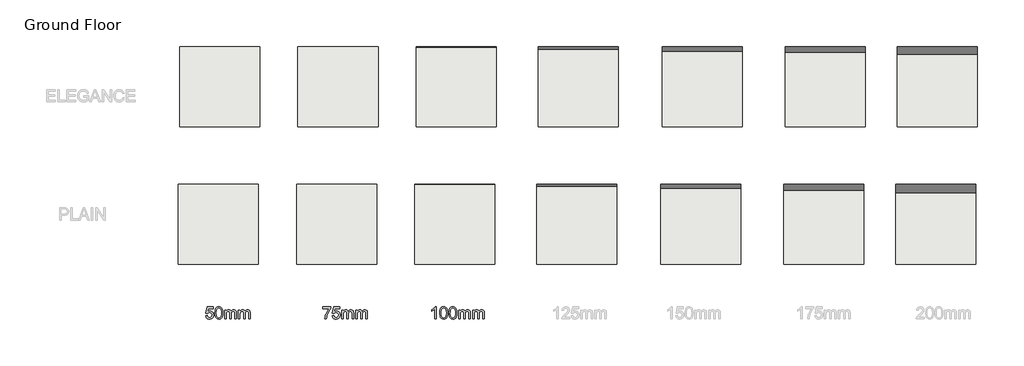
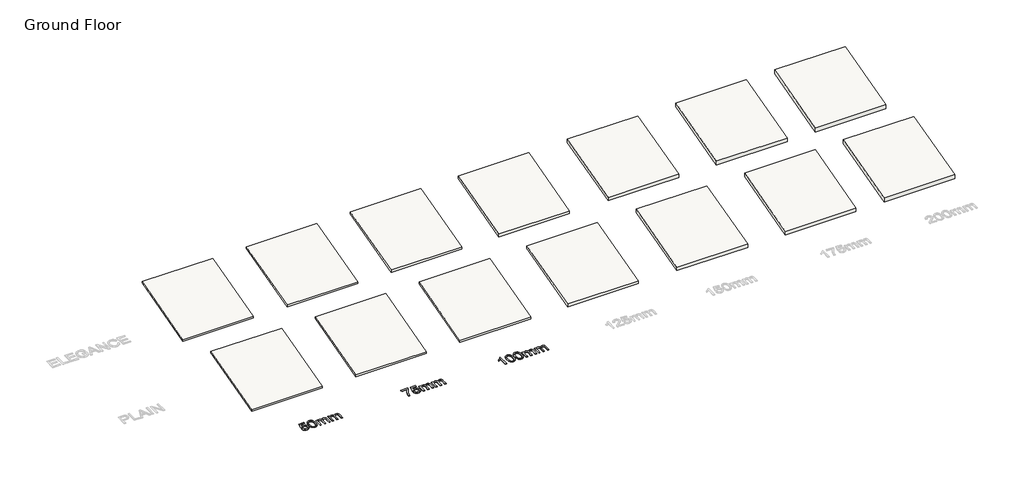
# One storey, part 1 of 3: 14 roofs, 3 proxies.
"""IFC4 building model written with IfcOpenShell, lengths in millimetres."""

import ifcopenshell
import ifcopenshell.guid

model = None  # the IFC model being written
_history = None  # IfcOwnerHistory: only IFC2X3 demands one
_inside = {}  # id of a spatial element -> (the spatial element, [elements in it])
_under = {}  # id of a project, library or spatial element -> (it, [spatial elements below it])
_declared = {}  # id of a project -> (the project, [libraries it declares])
_typed = {}  # id of a type object -> (the type object, [elements of that type])
_made_of = {}  # id of a material, layer set ... -> (it, [elements and type objects made of it])


def new_model(schema):
    """Start an empty IFC model of exactly this schema.

    Asked for "IFC4X3", IfcOpenShell would pick the latest addendum, in which some entities
    have other attributes; the version numbers below select the first issue.
    IFC2X3 requires an IfcOwnerHistory on every rooted entity: one is made here for all.
    """
    global model, _history
    if schema == "IFC4X3":
        model = ifcopenshell.file(schema_version=(4, 3, 0, 0))
    else:
        model = ifcopenshell.file(schema=schema)
    _inside.clear()
    _under.clear()
    _declared.clear()
    _typed.clear()
    _made_of.clear()
    _history = None
    if model.schema == "IFC2X3":
        org = make("IfcOrganization", Name="unknown")
        user = make(
            "IfcPersonAndOrganization",
            ThePerson=make("IfcPerson", FamilyName="unknown"),
            TheOrganization=org,
        )
        app = make(
            "IfcApplication",
            ApplicationDeveloper=org,
            Version="unknown",
            ApplicationFullName="unknown",
            ApplicationIdentifier="unknown",
        )
        _history = make(
            "IfcOwnerHistory",
            OwningUser=user,
            OwningApplication=app,
            ChangeAction="ADDED",
            CreationDate=0,
        )
    return model


def make(cls, **values):
    """One entity of the class cls with the attributes given. An attribute that is None is left unset."""
    return model.create_entity(
        cls, **{name: value for name, value in values.items() if value is not None}
    )


def rooted(cls, **values):
    """An entity with a GlobalId (a new one), such as an element, a storey or a relation."""
    return make(cls, GlobalId=ifcopenshell.guid.new(), OwnerHistory=_history, **values)


def si_unit(unit_type, name, prefix=None):
    """IfcSIUnit, for example si_unit("LENGTHUNIT", "METRE", prefix="MILLI")."""
    return make("IfcSIUnit", UnitType=unit_type, Prefix=prefix, Name=name)


def assignment(units):
    """IfcUnitAssignment: the units of a project."""
    return None if units is None else make("IfcUnitAssignment", Units=units)


def point(xyz):
    """IfcCartesianPoint."""
    return None if xyz is None else make("IfcCartesianPoint", Coordinates=xyz)


def direction(xyz):
    """IfcDirection."""
    return None if xyz is None else make("IfcDirection", DirectionRatios=xyz)


def frame(location, z_axis=None, x_axis=None):
    """IfcAxis2Placement3D, a coordinate frame: its origin and axes. An axis left out is left unset."""
    return make(
        "IfcAxis2Placement3D",
        Location=point(location),
        Axis=direction(z_axis),
        RefDirection=direction(x_axis),
    )


def origin():
    """The frame at (0, 0, 0) with its axes left unset."""
    return frame((0.0, 0.0, 0.0))


def origin_with_axes():
    """The frame at (0, 0, 0) with the z axis (0, 0, 1) and the x axis (1, 0, 0) written out."""
    return frame((0.0, 0.0, 0.0), z_axis=(0.0, 0.0, 1.0), x_axis=(1.0, 0.0, 0.0))


def place(relative_to, where):
    """IfcLocalPlacement: puts the frame where relative to a parent placement (None: the world)."""
    return make(
        "IfcLocalPlacement", PlacementRelTo=relative_to, RelativePlacement=where
    )


def context(
    kind, dimensions, precision=None, world=None, true_north=None, identifier=None
):
    """IfcGeometricRepresentationContext, for example the 3D "Model" context."""
    return make(
        "IfcGeometricRepresentationContext",
        ContextIdentifier=identifier,
        ContextType=kind,
        CoordinateSpaceDimension=dimensions,
        Precision=precision,
        WorldCoordinateSystem=world,
        TrueNorth=true_north,
    )


def project(units=None, contexts=None):
    """IfcProject with its units and contexts."""
    return rooted(
        "IfcProject",
        Name="project",
        RepresentationContexts=contexts,
        UnitsInContext=assignment(units),
    )


def spatial(cls, under=None, at=None, **own):
    """A site, building, storey or space (cls), placed at a placement, below another one or the project."""
    s = rooted(cls, ObjectPlacement=at, **own)
    if under is not None:
        _under.setdefault(under.id(), (under, []))[1].append(s)
    return s


def polyline(points):
    """IfcPolyline through the points."""
    return make("IfcPolyline", Points=[point(p) for p in points])


def outline(outer, holes=None, kind="AREA"):
    """IfcArbitraryClosedProfileDef: a profile drawn as a closed curve; with holes, ...WithVoids."""
    if holes is None:
        return make("IfcArbitraryClosedProfileDef", ProfileType=kind, OuterCurve=outer)
    return make(
        "IfcArbitraryProfileDefWithVoids",
        ProfileType=kind,
        OuterCurve=outer,
        InnerCurves=holes,
    )


def extrude(swept, where, along, depth):
    """IfcExtrudedAreaSolid: the profile swept, set in the frame where, extruded along a direction by depth."""
    return make(
        "IfcExtrudedAreaSolid",
        SweptArea=swept,
        Position=where,
        ExtrudedDirection=direction(along),
        Depth=depth,
    )


def shape(context_of_items, identifier, shape_type, items):
    """IfcShapeRepresentation: the items that make up one representation, for example the "Body"."""
    return make(
        "IfcShapeRepresentation",
        ContextOfItems=context_of_items,
        RepresentationIdentifier=identifier,
        RepresentationType=shape_type,
        Items=items,
    )


def made_of(thing, what):
    """Note that an element or type object is made of a material, layer set ...; save() writes the relation."""
    if what is not None:
        _made_of.setdefault(what.id(), (what, []))[1].append(thing)
    return thing


def element(
    cls,
    number,
    at=None,
    inside=None,
    cuts=None,
    type_object=None,
    material=None,
    context=None,
    identifier="Body",
    shape_type=None,
    held_by="IfcProductDefinitionShape",
    body=None,
    shapes=None,
    **own,
):
    """One element of the class cls, such as IfcWall. Its Tag is "e" and its number.

    at: its placement. inside: the storey or other place that contains it. cuts: it is an
    opening in that element (IfcRelVoidsElement). A single representation is given by context,
    identifier, shape_type and body (its items); several are given by shapes. held_by: the class
    of the entity that holds the representations. save() writes the other relations.
    """
    e = rooted(cls, Tag="e%d" % number, ObjectPlacement=at, **own)
    if body is not None:
        shapes = [shape(context, identifier, shape_type, body)]
    if shapes is not None:
        e.Representation = make(held_by, Representations=shapes)
    if inside is not None:
        _inside.setdefault(inside.id(), (inside, []))[1].append(e)
    if cuts is not None:
        rooted(
            "IfcRelVoidsElement", RelatingBuildingElement=cuts, RelatedOpeningElement=e
        )
    if type_object is not None:
        _typed.setdefault(type_object.id(), (type_object, []))[1].append(e)
    return made_of(e, material)


def aggregate(whole, parts):
    """IfcRelAggregates: a whole, such as a stair, and the parts it consists of."""
    return rooted("IfcRelAggregates", RelatingObject=whole, RelatedObjects=parts)


def save(model, path):
    """Write the relations noted so far, then the file.

    IfcRelAggregates (storeys below a building ...), IfcRelContainedInSpatialStructure (elements
    in a storey), IfcRelDefinesByType, IfcRelAssociatesMaterial and IfcRelDeclares: one each for
    every whole, place, type object, material and project.
    """
    for whole, parts in _under.values():
        aggregate(whole, parts)
    for where, things in _inside.values():
        rooted(
            "IfcRelContainedInSpatialStructure",
            RelatedElements=things,
            RelatingStructure=where,
        )
    for kind, things in _typed.values():
        rooted("IfcRelDefinesByType", RelatedObjects=things, RelatingType=kind)
    for what, things in _made_of.values():
        rooted("IfcRelAssociatesMaterial", RelatedObjects=things, RelatingMaterial=what)
    for by, libraries in _declared.values():
        rooted("IfcRelDeclares", RelatingContext=by, RelatedDefinitions=libraries)
    model.write(path)


model = new_model("IFC4")

# Units and contexts
model_context = context("Model", 3, world=origin())
ifc_project = project(units=[si_unit("LENGTHUNIT", "METRE", prefix="MILLI")], contexts=[model_context])

# Site, building, storey
site = spatial("IfcSite", under=ifc_project)
building = spatial("IfcBuilding", under=site)
storey = spatial("IfcBuildingStorey", under=building, Name="Ground Floor", Elevation=0.0)

# Proxies
placement = place(None, origin())
element("IfcBuildingElementProxy", 1, Name="600mm Arial", ObjectType="600mm Arial", at=placement, inside=storey, context=model_context, shape_type="SweptSolid", body=[
    extrude(outline(polyline([(-8104.9680038, -2325.4851257), (-8029.6257712, -2316.0673466), (-8023.9971767, -2340.2877775), (-8015.7934082, -2361.2984379), (-8005.0144657, -2379.099328), (-7991.6603493, -2393.6904476), (-7975.7586501, -2405.0534027), (-7957.3369592, -2413.1697993), (-7936.3952766, -2418.0396372), (-7912.9336023, -2419.6629165), (-7884.2388067, -2417.4050407), (-7858.9285255, -2410.6314135), (-7837.0027585, -2399.3420348), (-7818.461506, -2383.5369045), (-7803.718635, -2363.9977721), (-7793.1880129, -2341.5063866), (-7786.8696396, -2316.0627481), (-7784.7635152, -2287.6668566), (-7786.7362824, -2260.8298651), (-7792.654584, -2236.9727177), (-7802.51842, -2216.0954144), (-7816.3277904, -2198.1979554), (-7834.1286805, -2183.8413605), (-7855.9670754, -2173.5866499), (-7881.8429752, -2167.4338235), (-7911.75638, -2165.3828814), (-7948.3054562, -2168.6570312), (-7977.9015627, -2178.4794804), (-8001.5379809, -2193.525854), (-8020.2079921, -2212.4717768), (-8095.5502248, -2203.0539977), (-8029.6257712, -1892.2672882), (-7737.6746198, -1892.2672882), (-7737.6746198, -1967.6095208), (-7968.7045128, -1967.6095208), (-8000.9309756, -2133.597877), (-7974.3423044, -2114.5415897), (-7947.1098397, -2100.9299559), (-7919.2335815, -2092.7629756), (-7890.7135298, -2090.0406488), (-7854.0218993, -2093.4159661), (-7820.3193101, -2103.541918), (-7789.605762, -2120.4185045), (-7761.8812551, -2144.0457257), (-7738.9300172, -2172.9796446), (-7722.5362757, -2205.7763245), (-7712.7000309, -2242.4357653), (-7709.4212826, -2282.9579671), (-7712.3735356, -2321.9902468), (-7721.2302947, -2358.3001997), (-7735.9915597, -2391.8878258), (-7756.6573308, -2422.7531252), (-7787.9640886, -2454.3633857), (-7824.4947707, -2476.9421431), (-7866.2493772, -2490.4893976), (-7913.2279079, -2495.0051491), (-7952.1084363, -2492.1034798), (-7987.2273713, -2483.3984721), (-8018.5847128, -2468.890126), (-8046.180461, -2448.5784413), (-8069.140896, -2423.4750936), (-8086.5922982, -2394.5917585), (-8098.5346674, -2361.9284359), (-8104.9680038, -2325.4851257)])), origin_with_axes(), (0.0, 0.0, 1.0), 20.0),
    extrude(outline(polyline([(-7643.4968291, -2189.0744819), (-7637.9602051, -2092.5974287), (-7631.039425, -2051.6843523), (-7621.350333, -2015.6549094), (-7608.9343156, -1984.2147944), (-7593.8327597, -1957.0697016), (-7576.0456653, -1934.2196312), (-7555.5730322, -1915.6645831), (-7532.3458828, -1901.3079882), (-7506.295239, -1891.0532776), (-7477.4211009, -1884.9004512), (-7445.7234685, -1882.8495091), (-7399.2967607, -1887.7055514), (-7357.7260952, -1902.2736785), (-7322.9612467, -1925.983673), (-7296.9519896, -1958.2653181), (-7277.3070911, -1998.8427022), (-7261.6353181, -2047.4399138), (-7251.3714104, -2109.1521184), (-7247.9501079, -2189.0744819), (-7253.4315496, -2284.9997121), (-7260.2833518, -2325.7748328), (-7269.8758748, -2361.7582904), (-7282.1953231, -2393.212201), (-7297.2279011, -2420.3986805), (-7314.9736089, -2443.3177288), (-7335.4324463, -2461.9693459), (-7358.6871869, -2476.4225098), (-7384.8206042, -2486.7461983), (-7413.832698, -2492.9404114), (-7445.7234685, -2495.0051491), (-7487.2205575, -2491.4182996), (-7524.008757, -2480.6577513), (-7556.088067, -2462.723504), (-7583.4584875, -2437.6155578), (-7609.7252619, -2392.2281167), (-7628.4872437, -2335.675457), (-7639.7444327, -2267.9575787), (-7643.4968291, -2189.0744819)]), holes=[polyline([(-7568.1545965, -2188.9273291), (-7565.9473045, -2254.4241198), (-7559.3254286, -2307.4405138), (-7548.2889687, -2347.9765112), (-7532.8379249, -2376.0321118), (-7514.1495196, -2395.1205889), (-7493.400975, -2408.7552153), (-7470.5922913, -2416.9359912), (-7445.7234685, -2419.6629165), (-7420.8546456, -2416.9267941), (-7398.0459619, -2408.7184271), (-7377.2974174, -2395.0378154), (-7358.609012, -2375.884959), (-7343.1579682, -2347.7833731), (-7332.1215084, -2307.2565728), (-7325.4996324, -2254.3045582), (-7323.2923405, -2188.9273291), (-7325.426056, -2125.1641823), (-7331.8272028, -2073.0812888), (-7342.4957806, -2032.6786487), (-7357.4317896, -2003.9562619), (-7375.8074953, -1983.9342843), (-7396.7951631, -1969.6328718), (-7420.3947931, -1961.0520242), (-7446.6063853, -1958.1917417), (-7471.3464494, -1960.7117334), (-7493.768857, -1968.2717084), (-7513.8736081, -1980.8716667), (-7531.6607025, -1998.5116084), (-7547.6267811, -2029.781578), (-7559.031123, -2071.9408546), (-7565.8737281, -2124.9894383), (-7568.1545965, -2188.9273291)])]), origin_with_axes(), (0.0, 0.0, 1.0), 20.0),
    extrude(outline(polyline([(-7163.1900962, -2485.58737), (-7163.1900962, -2042.9517534), (-7087.8478636, -2042.9517534), (-7087.8478636, -2115.7923885), (-7065.1863327, -2082.333521), (-7036.0500786, -2056.1219288), (-7001.4323829, -2039.180963), (-6962.3265268, -2033.5339743), (-6920.4247676, -2039.2913276), (-6902.5916878, -2046.4880191), (-6886.8371414, -2056.5633872), (-6861.7475893, -2084.2097192), (-6845.3400523, -2121.0898892), (-6817.8776614, -2082.7841764), (-6786.5525095, -2055.422953), (-6751.3645967, -2039.006219), (-6712.3139229, -2033.5339743), (-6682.1521978, -2035.8102442), (-6655.6784897, -2042.6390537), (-6632.8927987, -2054.0204029), (-6613.7951246, -2069.9542919), (-6598.6981672, -2090.6246615), (-6587.9146262, -2116.2154528), (-6581.4445016, -2146.7266657), (-6579.2877934, -2182.1583004), (-6579.2877934, -2485.58737), (-6654.630026, -2485.58737), (-6654.630026, -2214.531916), (-6656.3774655, -2176.9527702), (-6661.619784, -2151.6240948), (-6671.4422332, -2134.2784587), (-6686.9300652, -2120.6484308), (-6706.8508753, -2111.8192629), (-6729.9722587, -2108.8762069), (-6751.32321, -2110.7616022), (-6770.788766, -2116.4177879), (-6788.3689269, -2125.844764), (-6804.0636925, -2139.0425306), (-6816.971752, -2156.3973637), (-6826.1917945, -2178.2955394), (-6831.72382, -2204.7370578), (-6833.5678285, -2235.7219189), (-6833.5678285, -2485.58737), (-6908.9100611, -2485.58737), (-6908.9100611, -2206.1442065), (-6913.2694628, -2163.5434714), (-6918.7187148, -2146.8232348), (-6926.3476677, -2133.1564186), (-6936.459824, -2122.533826), (-6949.3586865, -2114.9462599), (-6965.044255, -2110.3937202), (-6983.5165297, -2108.8762069), (-7012.5424192, -2112.9229089), (-7039.2874402, -2125.0630147), (-7061.3603599, -2145.0022189), (-7076.3699453, -2172.4462157), (-7084.978384, -2210.5220022), (-7087.8478636, -2262.3565753), (-7087.8478636, -2485.58737), (-7163.1900962, -2485.58737)])), origin_with_axes(), (0.0, 0.0, 1.0), 20.0),
    extrude(outline(polyline([(-6466.2744445, -2485.58737), (-6466.2744445, -2042.9517534), (-6390.9322119, -2042.9517534), (-6390.9322119, -2115.7923885), (-6368.270681, -2082.333521), (-6339.134427, -2056.1219288), (-6304.5167312, -2039.180963), (-6265.4108751, -2033.5339743), (-6223.5091159, -2039.2913276), (-6205.6760362, -2046.4880191), (-6189.9214897, -2056.5633872), (-6164.8319377, -2084.2097192), (-6148.4244007, -2121.0898892), (-6120.9620097, -2082.7841764), (-6089.6368579, -2055.422953), (-6054.448945, -2039.006219), (-6015.3982712, -2033.5339743), (-5985.2365461, -2035.8102442), (-5958.7628381, -2042.6390537), (-5935.977147, -2054.0204029), (-5916.8794729, -2069.9542919), (-5901.7825155, -2090.6246615), (-5890.9989746, -2116.2154528), (-5884.52885, -2146.7266657), (-5882.3721418, -2182.1583004), (-5882.3721418, -2485.58737), (-5957.7143744, -2485.58737), (-5957.7143744, -2214.531916), (-5959.4618139, -2176.9527702), (-5964.7041323, -2151.6240948), (-5974.5265816, -2134.2784587), (-5990.0144136, -2120.6484308), (-6009.9352236, -2111.8192629), (-6033.056607, -2108.8762069), (-6054.4075583, -2110.7616022), (-6073.8731144, -2116.4177879), (-6091.4532752, -2125.844764), (-6107.1480408, -2139.0425306), (-6120.0561003, -2156.3973637), (-6129.2761428, -2178.2955394), (-6134.8081683, -2204.7370578), (-6136.6521768, -2235.7219189), (-6136.6521768, -2485.58737), (-6211.9944094, -2485.58737), (-6211.9944094, -2206.1442065), (-6216.3538111, -2163.5434714), (-6221.8030631, -2146.8232348), (-6229.432016, -2133.1564186), (-6239.5441724, -2122.533826), (-6252.4430348, -2114.9462599), (-6268.1286034, -2110.3937202), (-6286.6008781, -2108.8762069), (-6315.6267675, -2112.9229089), (-6342.3717885, -2125.0630147), (-6364.4447082, -2145.0022189), (-6379.4542937, -2172.4462157), (-6388.0627323, -2210.5220022), (-6390.9322119, -2262.3565753), (-6390.9322119, -2485.58737), (-6466.2744445, -2485.58737)])), origin_with_axes(), (0.0, 0.0, 1.0), 20.0),
])
element("IfcBuildingElementProxy", 2, Name="600mm Arial", ObjectType="600mm Arial", at=placement, inside=storey, context=model_context, shape_type="SweptSolid", body=[
    extrude(outline(polyline([(-2245.6761452, -1967.6095208), (-2245.6761452, -1892.2672882), (-1850.129424, -1892.2672882), (-1850.129424, -1953.1885466), (-1906.5073397, -2024.5392596), (-1962.3334325, -2115.2773537), (-2011.5744375, -2217.125484), (-2031.4630579, -2269.1118085), (-2048.1970902, -2321.8063058), (-2066.1497315, -2400.1283825), (-2076.1561218, -2485.58737), (-2151.4983544, -2485.58737), (-2143.3497682, -2407.9274808), (-2121.55276, -2315.6258882), (-2105.6832504, -2266.260723), (-2086.695941, -2217.7876716), (-2064.5908316, -2170.2067341), (-2039.3679223, -2123.5179104), (-1984.1120466, -2038.2980462), (-1925.4716566, -1967.6095208), (-2245.6761452, -1967.6095208)])), origin_with_axes(), (0.0, 0.0, 1.0), 20.0),
    extrude(outline(polyline([(-1784.2049704, -2325.4851257), (-1708.8627378, -2316.0673466), (-1703.2341433, -2340.2877775), (-1695.0303748, -2361.2984379), (-1684.2514323, -2379.099328), (-1670.8973159, -2393.6904476), (-1654.9956167, -2405.0534027), (-1636.5739258, -2413.1697993), (-1615.6322432, -2418.0396372), (-1592.1705689, -2419.6629165), (-1563.4757733, -2417.4050407), (-1538.165492, -2410.6314135), (-1516.2397251, -2399.3420348), (-1497.6984726, -2383.5369045), (-1482.9556016, -2363.9977721), (-1472.4249795, -2341.5063866), (-1466.1066062, -2316.0627481), (-1464.0004818, -2287.6668566), (-1465.973249, -2260.8298651), (-1471.8915506, -2236.9727177), (-1481.7553866, -2216.0954144), (-1495.564757, -2198.1979554), (-1513.365647, -2183.8413605), (-1535.204042, -2173.5866499), (-1561.0799418, -2167.4338235), (-1590.9933466, -2165.3828814), (-1627.5424228, -2168.6570312), (-1657.1385293, -2178.4794804), (-1680.7749475, -2193.525854), (-1699.4449587, -2212.4717768), (-1774.7871913, -2203.0539977), (-1708.8627378, -1892.2672882), (-1416.9115864, -1892.2672882), (-1416.9115864, -1967.6095208), (-1647.9414794, -1967.6095208), (-1680.1679422, -2133.597877), (-1653.579271, -2114.5415897), (-1626.3468063, -2100.9299559), (-1598.4705481, -2092.7629756), (-1569.9504964, -2090.0406488), (-1533.2588659, -2093.4159661), (-1499.5562767, -2103.541918), (-1468.8427286, -2120.4185045), (-1441.1182217, -2144.0457257), (-1418.1669837, -2172.9796446), (-1401.7732423, -2205.7763245), (-1391.9369975, -2242.4357653), (-1388.6582492, -2282.9579671), (-1391.6105022, -2321.9902468), (-1400.4672612, -2358.3001997), (-1415.2285263, -2391.8878258), (-1435.8942974, -2422.7531252), (-1467.2010552, -2454.3633857), (-1503.7317373, -2476.9421431), (-1545.4863437, -2490.4893976), (-1592.4648745, -2495.0051491), (-1631.3454029, -2492.1034798), (-1666.4643379, -2483.3984721), (-1697.8216794, -2468.890126), (-1725.4174276, -2448.5784413), (-1748.3778626, -2423.4750936), (-1765.8292648, -2394.5917585), (-1777.771634, -2361.9284359), (-1784.2049704, -2325.4851257)])), origin_with_axes(), (0.0, 0.0, 1.0), 20.0),
    extrude(outline(polyline([(-1303.8982375, -2485.58737), (-1303.8982375, -2042.9517534), (-1228.5560049, -2042.9517534), (-1228.5560049, -2115.7923885), (-1205.894474, -2082.333521), (-1176.75822, -2056.1219288), (-1142.1405242, -2039.180963), (-1103.0346681, -2033.5339743), (-1061.1329089, -2039.2913276), (-1043.2998292, -2046.4880191), (-1027.5452827, -2056.5633872), (-1002.4557307, -2084.2097192), (-986.0481937, -2121.0898892), (-958.5858027, -2082.7841764), (-927.2606509, -2055.422953), (-892.072738, -2039.006219), (-853.0220642, -2033.5339743), (-822.8603391, -2035.8102442), (-796.3866311, -2042.6390537), (-773.60094, -2054.0204029), (-754.5032659, -2069.9542919), (-739.4063085, -2090.6246615), (-728.6227676, -2116.2154528), (-722.152643, -2146.7266657), (-719.9959348, -2182.1583004), (-719.9959348, -2485.58737), (-795.3381674, -2485.58737), (-795.3381674, -2214.531916), (-797.0856069, -2176.9527702), (-802.3279253, -2151.6240948), (-812.1503746, -2134.2784587), (-827.6382066, -2120.6484308), (-847.5590166, -2111.8192629), (-870.6804, -2108.8762069), (-892.0313513, -2110.7616022), (-911.4969074, -2116.4177879), (-929.0770682, -2125.844764), (-944.7718338, -2139.0425306), (-957.6798933, -2156.3973637), (-966.8999358, -2178.2955394), (-972.4319613, -2204.7370578), (-974.2759698, -2235.7219189), (-974.2759698, -2485.58737), (-1049.6182024, -2485.58737), (-1049.6182024, -2206.1442065), (-1053.9776041, -2163.5434714), (-1059.4268561, -2146.8232348), (-1067.055809, -2133.1564186), (-1077.1679654, -2122.533826), (-1090.0668278, -2114.9462599), (-1105.7523964, -2110.3937202), (-1124.2246711, -2108.8762069), (-1153.2505605, -2112.9229089), (-1179.9955815, -2125.0630147), (-1202.0685013, -2145.0022189), (-1217.0780867, -2172.4462157), (-1225.6865253, -2210.5220022), (-1228.5560049, -2262.3565753), (-1228.5560049, -2485.58737), (-1303.8982375, -2485.58737)])), origin_with_axes(), (0.0, 0.0, 1.0), 20.0),
    extrude(outline(polyline([(-606.9825859, -2485.58737), (-606.9825859, -2042.9517534), (-531.6403532, -2042.9517534), (-531.6403532, -2115.7923885), (-508.9788223, -2082.333521), (-479.8425683, -2056.1219288), (-445.2248726, -2039.180963), (-406.1190165, -2033.5339743), (-364.2172572, -2039.2913276), (-346.3841775, -2046.4880191), (-330.6296311, -2056.5633872), (-305.540079, -2084.2097192), (-289.132542, -2121.0898892), (-261.6701511, -2082.7841764), (-230.3449992, -2055.422953), (-195.1570864, -2039.006219), (-156.1064126, -2033.5339743), (-125.9446875, -2035.8102442), (-99.4709794, -2042.6390537), (-76.6852883, -2054.0204029), (-57.5876143, -2069.9542919), (-42.4906569, -2090.6246615), (-31.7071159, -2116.2154528), (-25.2369913, -2146.7266657), (-23.0802831, -2182.1583004), (-23.0802831, -2485.58737), (-98.4225157, -2485.58737), (-98.4225157, -2214.531916), (-100.1699552, -2176.9527702), (-105.4122736, -2151.6240948), (-115.2347229, -2134.2784587), (-130.7225549, -2120.6484308), (-150.6433649, -2111.8192629), (-173.7647483, -2108.8762069), (-195.1156996, -2110.7616022), (-214.5812557, -2116.4177879), (-232.1614165, -2125.844764), (-247.8561822, -2139.0425306), (-260.7642417, -2156.3973637), (-269.9842842, -2178.2955394), (-275.5163097, -2204.7370578), (-277.3603182, -2235.7219189), (-277.3603182, -2485.58737), (-352.7025508, -2485.58737), (-352.7025508, -2206.1442065), (-357.0619524, -2163.5434714), (-362.5112045, -2146.8232348), (-370.1401574, -2133.1564186), (-380.2523137, -2122.533826), (-393.1511762, -2114.9462599), (-408.8367447, -2110.3937202), (-427.3090194, -2108.8762069), (-456.3349088, -2112.9229089), (-483.0799299, -2125.0630147), (-505.1528496, -2145.0022189), (-520.162435, -2172.4462157), (-528.7708737, -2210.5220022), (-531.6403532, -2262.3565753), (-531.6403532, -2485.58737), (-606.9825859, -2485.58737)])), origin_with_axes(), (0.0, 0.0, 1.0), 20.0),
])
element("IfcBuildingElementProxy", 3, Name="600mm Arial", ObjectType="600mm Arial", at=placement, inside=storey, context=model_context, shape_type="SweptSolid", body=[
    extrude(outline(polyline([(3406.1216398, -2485.58737), (3330.7794071, -2485.58737), (3330.7794071, -2015.8756386), (3299.3254966, -2041.3146785), (3259.4103001, -2066.7169303), (3217.5085408, -2088.9186087), (3180.0949419, -2104.7559286), (3180.0949419, -2033.5339743), (3239.2687608, -2001.3442998), (3290.5331169, -1963.0477841), (3330.944954, -1922.3232472), (3357.5612164, -1882.8495091), (3406.1216398, -1882.8495091), (3406.1216398, -2485.58737)])), origin_with_axes(), (0.0, 0.0, 1.0), 20.0),
    extrude(outline(polyline([(3585.0594422, -2189.0744819), (3590.5960662, -2092.5974287), (3597.5168463, -2051.6843523), (3607.2059383, -2015.6549094), (3619.6219557, -1984.2147944), (3634.7235116, -1957.0697016), (3652.510606, -1934.2196312), (3672.9832391, -1915.6645831), (3696.2103885, -1901.3079882), (3722.2610323, -1891.0532776), (3751.1351704, -1884.9004512), (3782.8328028, -1882.8495091), (3829.2595106, -1887.7055514), (3870.8301761, -1902.2736785), (3905.5950246, -1925.983673), (3931.6042817, -1958.2653181), (3951.2491802, -1998.8427022), (3966.9209532, -2047.4399138), (3977.1848609, -2109.1521184), (3980.6061634, -2189.0744819), (3975.1247217, -2284.9997121), (3968.2729195, -2325.7748328), (3958.6803965, -2361.7582904), (3946.3609482, -2393.212201), (3931.3283702, -2420.3986805), (3913.5826624, -2443.3177288), (3893.123825, -2461.9693459), (3869.8690843, -2476.4225098), (3843.7356671, -2486.7461983), (3814.7235733, -2492.9404114), (3782.8328028, -2495.0051491), (3741.3357138, -2491.4182996), (3704.5475142, -2480.6577513), (3672.4682043, -2462.723504), (3645.0977838, -2437.6155578), (3618.8310094, -2392.2281167), (3600.0690276, -2335.675457), (3588.8118386, -2267.9575787), (3585.0594422, -2189.0744819)]), holes=[polyline([(3660.4016748, -2188.9273291), (3662.6089668, -2254.4241198), (3669.2308427, -2307.4405138), (3680.2673026, -2347.9765112), (3695.7183464, -2376.0321118), (3714.4067517, -2395.1205889), (3735.1552962, -2408.7552153), (3757.9639799, -2416.9359912), (3782.8328028, -2419.6629165), (3807.7016257, -2416.9267941), (3830.5103094, -2408.7184271), (3851.2588539, -2395.0378154), (3869.9472593, -2375.884959), (3885.3983031, -2347.7833731), (3896.4347629, -2307.2565728), (3903.0566388, -2254.3045582), (3905.2639308, -2188.9273291), (3903.1302152, -2125.1641823), (3896.7290685, -2073.0812888), (3886.0604907, -2032.6786487), (3871.1244817, -2003.9562619), (3852.748776, -1983.9342843), (3831.7611082, -1969.6328718), (3808.1614782, -1961.0520242), (3781.949886, -1958.1917417), (3757.2098218, -1960.7117334), (3734.7874142, -1968.2717084), (3714.6826632, -1980.8716667), (3696.8955687, -1998.5116084), (3680.9294901, -2029.781578), (3669.5251483, -2071.9408546), (3662.6825432, -2124.9894383), (3660.4016748, -2188.9273291)])]), origin_with_axes(), (0.0, 0.0, 1.0), 20.0),
    extrude(outline(polyline([(4046.530617, -2189.0744819), (4052.067241, -2092.5974287), (4058.988021, -2051.6843523), (4068.6771131, -2015.6549094), (4081.0931304, -1984.2147944), (4096.1946863, -1957.0697016), (4113.9817808, -1934.2196312), (4134.4544138, -1915.6645831), (4157.6815633, -1901.3079882), (4183.7322071, -1891.0532776), (4212.6063452, -1884.9004512), (4244.3039776, -1882.8495091), (4290.7306854, -1887.7055514), (4332.3013508, -1902.2736785), (4367.0661994, -1925.983673), (4393.0754564, -1958.2653181), (4412.720355, -1998.8427022), (4428.392128, -2047.4399138), (4438.6560356, -2109.1521184), (4442.0773382, -2189.0744819), (4436.5958964, -2284.9997121), (4429.7440943, -2325.7748328), (4420.1515713, -2361.7582904), (4407.8321229, -2393.212201), (4392.7995449, -2420.3986805), (4375.0538372, -2443.3177288), (4354.5949997, -2461.9693459), (4331.3402591, -2476.4225098), (4305.2068419, -2486.7461983), (4276.194748, -2492.9404114), (4244.3039776, -2495.0051491), (4202.8068885, -2491.4182996), (4166.018689, -2480.6577513), (4133.939379, -2462.723504), (4106.5689586, -2437.6155578), (4080.3021841, -2392.2281167), (4061.5402024, -2335.675457), (4050.2830133, -2267.9575787), (4046.530617, -2189.0744819)]), holes=[polyline([(4121.8728496, -2188.9273291), (4124.0801415, -2254.4241198), (4130.7020175, -2307.4405138), (4141.7384773, -2347.9765112), (4157.1895211, -2376.0321118), (4175.8779265, -2395.1205889), (4196.626471, -2408.7552153), (4219.4351547, -2416.9359912), (4244.3039776, -2419.6629165), (4269.1728004, -2416.9267941), (4291.9814841, -2408.7184271), (4312.7300287, -2395.0378154), (4331.418434, -2375.884959), (4346.8694778, -2347.7833731), (4357.9059377, -2307.2565728), (4364.5278136, -2254.3045582), (4366.7351056, -2188.9273291), (4364.60139, -2125.1641823), (4358.2002433, -2073.0812888), (4347.5316654, -2032.6786487), (4332.5956564, -2003.9562619), (4314.2199507, -1983.9342843), (4293.2322829, -1969.6328718), (4269.6326529, -1961.0520242), (4243.4210608, -1958.1917417), (4218.6809966, -1960.7117334), (4196.258589, -1968.2717084), (4176.153838, -1980.8716667), (4158.3667435, -1998.5116084), (4142.4006649, -2029.781578), (4130.996323, -2071.9408546), (4124.1537179, -2124.9894383), (4121.8728496, -2188.9273291)])]), origin_with_axes(), (0.0, 0.0, 1.0), 20.0),
    extrude(outline(polyline([(4526.8373499, -2485.58737), (4526.8373499, -2042.9517534), (4602.1795825, -2042.9517534), (4602.1795825, -2115.7923885), (4624.8411134, -2082.333521), (4653.9773674, -2056.1219288), (4688.5950631, -2039.180963), (4727.7009192, -2033.5339743), (4769.6026785, -2039.2913276), (4787.4357582, -2046.4880191), (4803.1903046, -2056.5633872), (4828.2798567, -2084.2097192), (4844.6873937, -2121.0898892), (4872.1497846, -2082.7841764), (4903.4749365, -2055.422953), (4938.6628494, -2039.006219), (4977.7135231, -2033.5339743), (5007.8752482, -2035.8102442), (5034.3489563, -2042.6390537), (5057.1346474, -2054.0204029), (5076.2323215, -2069.9542919), (5091.3292788, -2090.6246615), (5102.1128198, -2116.2154528), (5108.5829444, -2146.7266657), (5110.7396526, -2182.1583004), (5110.7396526, -2485.58737), (5035.39742, -2485.58737), (5035.39742, -2214.531916), (5033.6499805, -2176.9527702), (5028.4076621, -2151.6240948), (5018.5852128, -2134.2784587), (5003.0973808, -2120.6484308), (4983.1765708, -2111.8192629), (4960.0551874, -2108.8762069), (4938.7042361, -2110.7616022), (4919.23868, -2116.4177879), (4901.6585192, -2125.844764), (4885.9637536, -2139.0425306), (4873.055694, -2156.3973637), (4863.8356515, -2178.2955394), (4858.303626, -2204.7370578), (4856.4596175, -2235.7219189), (4856.4596175, -2485.58737), (4781.1173849, -2485.58737), (4781.1173849, -2206.1442065), (4776.7579833, -2163.5434714), (4771.3087312, -2146.8232348), (4763.6797784, -2133.1564186), (4753.567622, -2122.533826), (4740.6687596, -2114.9462599), (4724.983191, -2110.3937202), (4706.5109163, -2108.8762069), (4677.4850269, -2112.9229089), (4650.7400058, -2125.0630147), (4628.6670861, -2145.0022189), (4613.6575007, -2172.4462157), (4605.049062, -2210.5220022), (4602.1795825, -2262.3565753), (4602.1795825, -2485.58737), (4526.8373499, -2485.58737)])), origin_with_axes(), (0.0, 0.0, 1.0), 20.0),
    extrude(outline(polyline([(5223.7530015, -2485.58737), (5223.7530015, -2042.9517534), (5299.0952341, -2042.9517534), (5299.0952341, -2115.7923885), (5321.756765, -2082.333521), (5350.8930191, -2056.1219288), (5385.5107148, -2039.180963), (5424.6165709, -2033.5339743), (5466.5183301, -2039.2913276), (5484.3514099, -2046.4880191), (5500.1059563, -2056.5633872), (5525.1955084, -2084.2097192), (5541.6030454, -2121.0898892), (5569.0654363, -2082.7841764), (5600.3905882, -2055.422953), (5635.578501, -2039.006219), (5674.6291748, -2033.5339743), (5704.7908999, -2035.8102442), (5731.264608, -2042.6390537), (5754.050299, -2054.0204029), (5773.1479731, -2069.9542919), (5788.2449305, -2090.6246615), (5799.0284715, -2116.2154528), (5805.4985961, -2146.7266657), (5807.6553043, -2182.1583004), (5807.6553043, -2485.58737), (5732.3130717, -2485.58737), (5732.3130717, -2214.531916), (5730.5656322, -2176.9527702), (5725.3233137, -2151.6240948), (5715.5008645, -2134.2784587), (5700.0130325, -2120.6484308), (5680.0922224, -2111.8192629), (5656.970839, -2108.8762069), (5635.6198877, -2110.7616022), (5616.1543317, -2116.4177879), (5598.5741708, -2125.844764), (5582.8794052, -2139.0425306), (5569.9713457, -2156.3973637), (5560.7513032, -2178.2955394), (5555.2192777, -2204.7370578), (5553.3752692, -2235.7219189), (5553.3752692, -2485.58737), (5478.0330366, -2485.58737), (5478.0330366, -2206.1442065), (5473.6736349, -2163.5434714), (5468.2243829, -2146.8232348), (5460.59543, -2133.1564186), (5450.4832737, -2122.533826), (5437.5844112, -2114.9462599), (5421.8988426, -2110.3937202), (5403.426568, -2108.8762069), (5374.4006785, -2112.9229089), (5347.6556575, -2125.0630147), (5325.5827378, -2145.0022189), (5310.5731524, -2172.4462157), (5301.9647137, -2210.5220022), (5299.0952341, -2262.3565753), (5299.0952341, -2485.58737), (5223.7530015, -2485.58737)])), origin_with_axes(), (0.0, 0.0, 1.0), 20.0),
])

# Roofs
element("IfcRoof", 4, ObjectType="InsulatedPanels_Bondor_SolarSpan_Elegance_50mm_Surfmist", at=placement, inside=storey, context=model_context, shape_type="SweptSolid", body=[
    extrude(outline(polyline([(7117.3153758, 84.8926468), (11117.3153758, 1156.6894165), (11117.3153758, 1071.7967697), (7117.3153758, 0.0), (7117.3153758, 84.8926468)])), frame((-9394.1046418, 0.0, 0.0), z_axis=(1.0, 0.0, 0.0), x_axis=(0.0, 1.0, 0.0)), (0.0, 0.0, 1.0), 4000.0),
])
element("IfcRoof", 5, ObjectType="InsulatedPanels_Bondor_SolarSpan_Elegance_75mm_Surfmist", at=placement, inside=storey, context=model_context, shape_type="SweptSolid", body=[
    extrude(outline(polyline([(7117.3153758, 110.7745513), (11117.3153758, 1182.571321), (11117.3153758, 1071.7967697), (7117.3153758, 0.0), (7117.3153758, 110.7745513)])), frame((-3494.1046418, 0.0, 0.0), z_axis=(1.0, 0.0, 0.0), x_axis=(0.0, 1.0, 0.0)), (0.0, 0.0, 1.0), 4000.0),
])
element("IfcRoof", 6, ObjectType="InsulatedPanels_Bondor_SolarSpan_Elegance_100mm_Surfmist", at=placement, inside=storey, context=model_context, shape_type="SweptSolid", body=[
    extrude(outline(polyline([(7117.3153758, 136.6564558), (11117.3153758, 1208.4532255), (11117.3153758, 1071.7967697), (7117.3153758, 0.0), (7117.3153758, 136.6564558)])), frame((2405.8953582, 0.0, 0.0), z_axis=(1.0, 0.0, 0.0), x_axis=(0.0, 1.0, 0.0)), (0.0, 0.0, 1.0), 4000.0),
])
element("IfcRoof", 7, ObjectType="InsulatedPanels_Bondor_SolarSpan_Elegance_125mm_Surfmist", at=placement, inside=storey, context=model_context, shape_type="SweptSolid", body=[
    extrude(outline(polyline([(7117.3153758, 162.5383603), (11117.3153758, 1234.33513), (11117.3153758, 1071.7967697), (7117.3153758, 0.0), (7117.3153758, 162.5383603)])), frame((8505.8953582, 0.0, 0.0), z_axis=(1.0, 0.0, 0.0), x_axis=(0.0, 1.0, 0.0)), (0.0, 0.0, 1.0), 4000.0),
])
element("IfcRoof", 8, ObjectType="InsulatedPanels_Bondor_SolarSpan_Elegance_150mm_Surfmist", at=placement, inside=storey, context=model_context, shape_type="SweptSolid", body=[
    extrude(outline(polyline([(7117.3153758, 188.4202648), (11117.3153758, 1260.2170346), (11117.3153758, 1071.7967697), (7117.3153758, 0.0), (7117.3153758, 188.4202648)])), frame((14705.8953582, 0.0, 0.0), z_axis=(1.0, 0.0, 0.0), x_axis=(0.0, 1.0, 0.0)), (0.0, 0.0, 1.0), 4000.0),
])
element("IfcRoof", 9, ObjectType="InsulatedPanels_Bondor_SolarSpan_Elegance_200mm_Surfmist", at=placement, inside=storey, context=model_context, shape_type="SweptSolid", body=[
    extrude(outline(polyline([(7117.3153758, 240.1840739), (11117.3153758, 1311.9808436), (11117.3153758, 1071.7967697), (7117.3153758, 0.0), (7117.3153758, 240.1840739)])), frame((26445.8953582, 0.0, 0.0), z_axis=(1.0, 0.0, 0.0), x_axis=(0.0, 1.0, 0.0)), (0.0, 0.0, 1.0), 4000.0),
])
element("IfcRoof", 10, ObjectType="InsulatedPanels_Bondor_SolarSpan_Plain_50mm_Surfmist", at=placement, inside=storey, context=model_context, shape_type="SweptSolid", body=[
    extrude(outline(polyline([(237.1308894, 84.8926468), (4237.1308894, 1156.6894165), (4237.1308894, 1071.7967697), (237.1308894, 0.0), (237.1308894, 84.8926468)])), frame((-9467.07943, 0.0, 0.0), z_axis=(1.0, 0.0, 0.0), x_axis=(0.0, 1.0, 0.0)), (0.0, 0.0, 1.0), 4000.0),
])
element("IfcRoof", 11, ObjectType="InsulatedPanels_Bondor_SolarSpan_Plain_75mm_Surfmist", at=placement, inside=storey, context=model_context, shape_type="SweptSolid", body=[
    extrude(outline(polyline([(237.1308894, 110.7745513), (4237.1308894, 1182.571321), (4237.1308894, 1071.7967697), (237.1308894, 0.0), (237.1308894, 110.7745513)])), frame((-3567.07943, 0.0, 0.0), z_axis=(1.0, 0.0, 0.0), x_axis=(0.0, 1.0, 0.0)), (0.0, 0.0, 1.0), 4000.0),
])
element("IfcRoof", 12, ObjectType="InsulatedPanels_Bondor_SolarSpan_Plain_100mm_Surfmist", at=placement, inside=storey, context=model_context, shape_type="SweptSolid", body=[
    extrude(outline(polyline([(237.1308894, 136.6564558), (4237.1308894, 1208.4532255), (4237.1308894, 1071.7967697), (237.1308894, 0.0), (237.1308894, 136.6564558)])), frame((2332.92057, 0.0, 0.0), z_axis=(1.0, 0.0, 0.0), x_axis=(0.0, 1.0, 0.0)), (0.0, 0.0, 1.0), 4000.0),
])
element("IfcRoof", 13, ObjectType="InsulatedPanels_Bondor_SolarSpan_Plain_125mm_Surfmist", at=placement, inside=storey, context=model_context, shape_type="SweptSolid", body=[
    extrude(outline(polyline([(237.1308894, 162.5383603), (4237.1308894, 1234.33513), (4237.1308894, 1071.7967697), (237.1308894, 0.0), (237.1308894, 162.5383603)])), frame((8432.92057, 0.0, 0.0), z_axis=(1.0, 0.0, 0.0), x_axis=(0.0, 1.0, 0.0)), (0.0, 0.0, 1.0), 4000.0),
])
element("IfcRoof", 14, ObjectType="InsulatedPanels_Bondor_SolarSpan_Plain_150mm_Surfmist", at=placement, inside=storey, context=model_context, shape_type="SweptSolid", body=[
    extrude(outline(polyline([(237.1308894, 188.4202648), (4237.1308894, 1260.2170346), (4237.1308894, 1071.7967697), (237.1308894, 0.0), (237.1308894, 188.4202648)])), frame((14632.92057, 0.0, 0.0), z_axis=(1.0, 0.0, 0.0), x_axis=(0.0, 1.0, 0.0)), (0.0, 0.0, 1.0), 4000.0),
])
element("IfcRoof", 15, ObjectType="InsulatedPanels_Bondor_SolarSpan_Plain_200mm_Surfmist", at=placement, inside=storey, context=model_context, shape_type="SweptSolid", body=[
    extrude(outline(polyline([(237.1308894, 240.1840739), (4237.1308894, 1311.9808436), (4237.1308894, 1071.7967697), (237.1308894, 0.0), (237.1308894, 240.1840739)])), frame((26372.92057, 0.0, 0.0), z_axis=(1.0, 0.0, 0.0), x_axis=(0.0, 1.0, 0.0)), (0.0, 0.0, 1.0), 4000.0),
])
element("IfcRoof", 16, ObjectType="InsulatedPanels_Bondor_SolarSpan_Elegance_175mm_Surfmist", at=placement, inside=storey, context=model_context, shape_type="SweptSolid", body=[
    extrude(outline(polyline([(7117.3153758, 214.3021693), (11117.3153758, 1286.0989391), (11117.3153758, 1071.7967697), (7117.3153758, 0.0), (7117.3153758, 214.3021693)])), frame((20845.8953582, 0.0, 0.0), z_axis=(1.0, 0.0, 0.0), x_axis=(0.0, 1.0, 0.0)), (0.0, 0.0, 1.0), 4000.0),
])
element("IfcRoof", 17, ObjectType="InsulatedPanels_Bondor_SolarSpan_Plain_175mm_Surfmist", at=placement, inside=storey, context=model_context, shape_type="SweptSolid", body=[
    extrude(outline(polyline([(237.1308894, 214.3021693), (4237.1308894, 1286.0989391), (4237.1308894, 1071.7967697), (237.1308894, 0.0), (237.1308894, 214.3021693)])), frame((20772.92057, 0.0, 0.0), z_axis=(1.0, 0.0, 0.0), x_axis=(0.0, 1.0, 0.0)), (0.0, 0.0, 1.0), 4000.0),
])

save(model, "model.ifc")
